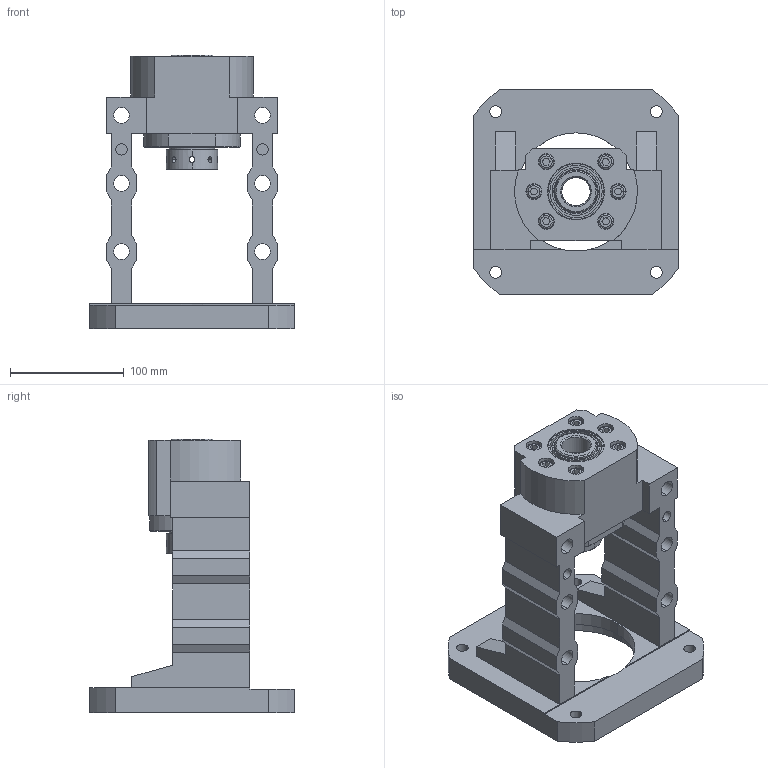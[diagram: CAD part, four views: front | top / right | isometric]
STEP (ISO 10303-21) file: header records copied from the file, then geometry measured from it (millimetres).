
FILE_DESCRIPTION (( 'STEP AP203' ), '1' );
FILE_NAME ('MBCK25-H²Õ¦X¥ó.STEP', '2022-10-20T03:02:35', ( '' ), ( '' ), 'SwSTEP 2.0', 'SolidWorks 2018', '' );
FILE_SCHEMA (( 'CONFIG_CONTROL_DESIGN' ));
Length unit declared in the file: millimetre
Products named in the file (1): MBCK25-H組合件
Bounding box: 180 x 180 x 241 mm (x, y, z)
Surface area: 224585.2 mm2 (no closed solid volume)
Topology: 0 solids, 22 shells, 342 faces, 950 edges, 626 vertices
Faces by surface type: plane 134, cylinder 122, cone 59, torus 26, bspline 1
Entity records: 13675 total; most frequent: CARTESIAN_POINT 4817, DIRECTION 1875, ORIENTED_EDGE 1684, EDGE_CURVE 942, AXIS2_PLACEMENT_3D 706, VERTEX_POINT 626, VECTOR 463, LINE 463
